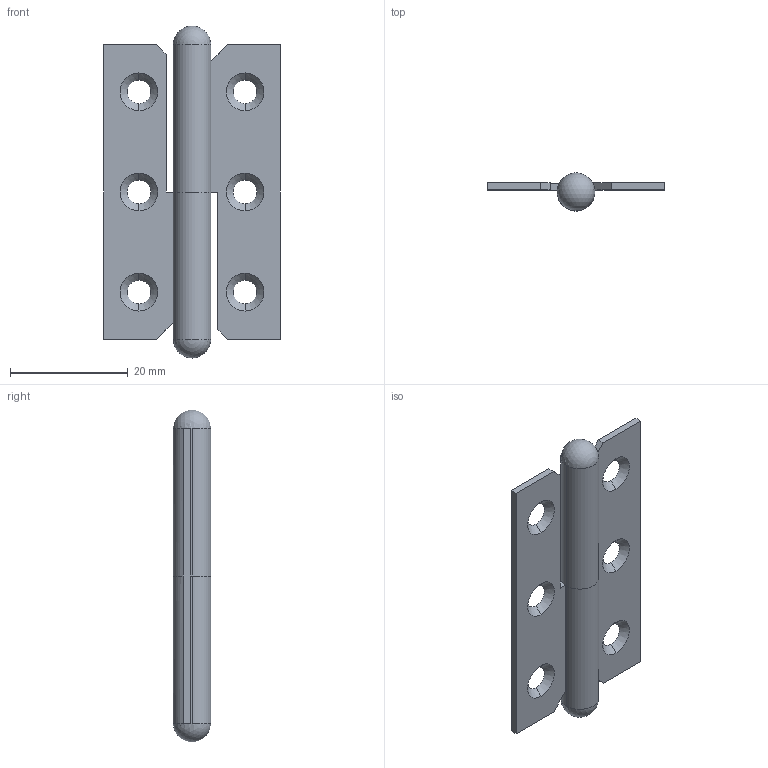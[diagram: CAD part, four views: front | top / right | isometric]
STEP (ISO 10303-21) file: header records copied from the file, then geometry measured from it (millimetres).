
FILE_DESCRIPTION((''),'2;1');
FILE_NAME('6079.01,02.stp','2015-07-22T15:53:48',(''),(''),'Mechanical Desktop 2006','Mechanical Desktop 2006',', , ');
FILE_SCHEMA(('CONFIG_CONTROL_DESIGN'));
Length unit declared in the file: millimetre
Products named in the file (1): 6079.01-02
Bounding box: 30 x 6.4 x 56.35 mm (x, y, z)
Volume: 2929.6 mm3; surface area: 4143.3 mm2
Topology: 2 solids, 2 shells, 42 faces, 116 edges, 76 vertices
Faces by surface type: plane 20, cone 12, cylinder 8, sphere 2
Entity records: 1413 total; most frequent: DIRECTION 238, CARTESIAN_POINT 223, ORIENTED_EDGE 216, EDGE_CURVE 108, AXIS2_PLACEMENT_3D 87, VERTEX_POINT 72, VECTOR 64, LINE 64
